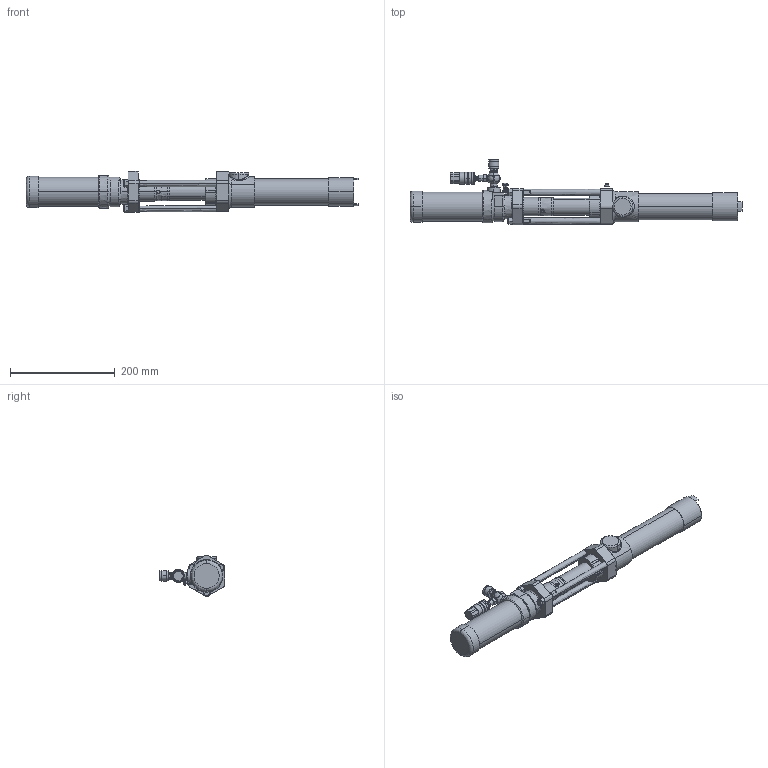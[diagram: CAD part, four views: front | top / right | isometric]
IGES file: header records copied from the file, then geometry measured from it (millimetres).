
Start section:  PTC IGES file: 226948-en-zad.igs
Global section: file name: 226948-en-zad.igs; native system: Creo Parametric by PTC Inc.; preprocessor: 2021072; author: qtmwp1; organization: Unknown; date: 20220214.110235; units: inch
Bounding box: 634.52 x 125 x 78.4 mm (x, y, z)
Surface area: 217793.3 mm2 (no closed solid volume)
Topology: 0 solids, 0 shells, 421 faces, 1961 edges, 1961 vertices
Faces by surface type: revolution 253, bspline 168
